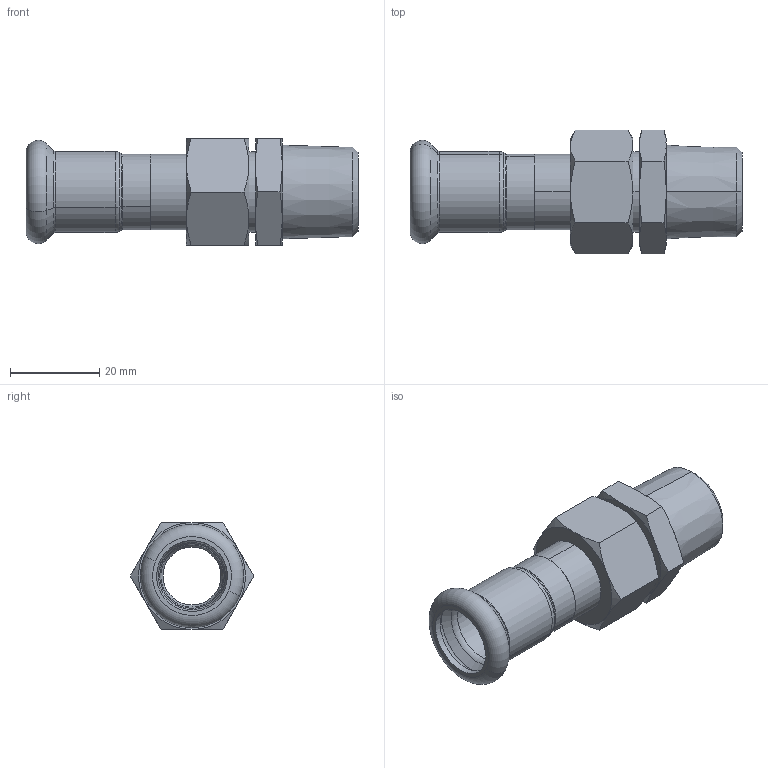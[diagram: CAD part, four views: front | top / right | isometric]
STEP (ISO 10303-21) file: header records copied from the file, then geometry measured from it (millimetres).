
FILE_DESCRIPTION (( 'STEP AP203' ), '1' );
FILE_NAME ('GDA5431.STEP', '2019-01-21T05:14:04', ( '' ), ( '' ), 'SwSTEP 2.0', 'SolidWorks 2015', '' );
FILE_SCHEMA (( 'CONFIG_CONTROL_DESIGN' ));
Length unit declared in the file: millimetre
Products named in the file (6): T-ｉ-01-15; GDA5431; 0.5; ZL-Ⅰ-01×?; 15｡ﾁ?; 蛌遙諉芛0.5-0.5
Assembly tree (5 placements, depth 2):
  GDA5431
    15｡ﾁ?
    ZL-Ⅰ-01×?
    0.5
    蛌遙諉芛0.5-0.5
    T-ｉ-01-15
Bounding box: 74.5 x 27.71 x 24 mm (x, y, z)
Volume: 13484.6 mm3; surface area: 12023.6 mm2
Topology: 5 solids, 5 shells, 128 faces, 264 edges, 152 vertices
Faces by surface type: cone 50, cylinder 34, plane 28, torus 16
Entity records: 4176 total; most frequent: CARTESIAN_POINT 816, DIRECTION 632, ORIENTED_EDGE 528, AXIS2_PLACEMENT_3D 280, EDGE_CURVE 264, VERTEX_POINT 152, EDGE_LOOP 144, CIRCLE 144
